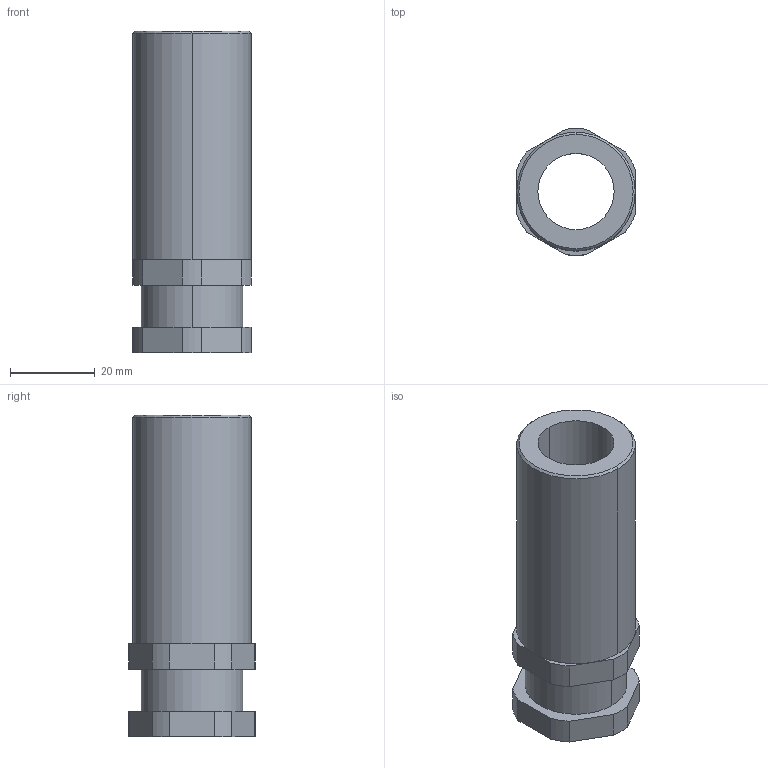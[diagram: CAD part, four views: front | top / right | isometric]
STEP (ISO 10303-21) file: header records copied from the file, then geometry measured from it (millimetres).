
FILE_DESCRIPTION((''),'2;1');
FILE_NAME('108412','2008-07-30T',('sdanet'),(''),'PRO/ENGINEER BY PARAMETRIC TECHNOLOGY CORPORATION, 2008010','PRO/ENGINEER BY PARAMETRIC TECHNOLOGY CORPORATION, 2008010','');
FILE_SCHEMA(('AUTOMOTIVE_DESIGN_CC2 { 1 2 10303 214 -1 1 5 2 }'));
Length unit declared in the file: millimetre
Products named in the file (1): 108412
Bounding box: 28 x 29.96 x 76 mm (x, y, z)
Volume: 25155.8 mm3; surface area: 12763.8 mm2
Topology: 1 solids, 2 shells, 56 faces, 136 edges, 88 vertices
Faces by surface type: cylinder 28, plane 26, cone 2
Entity records: 2141 total; most frequent: DIRECTION 314, CARTESIAN_POINT 281, ORIENTED_EDGE 268, PRESENTATION_STYLE_ASSIGNMENT 138, STYLED_ITEM 138, CURVE_STYLE 136, EDGE_CURVE 136, AXIS2_PLACEMENT_3D 121
